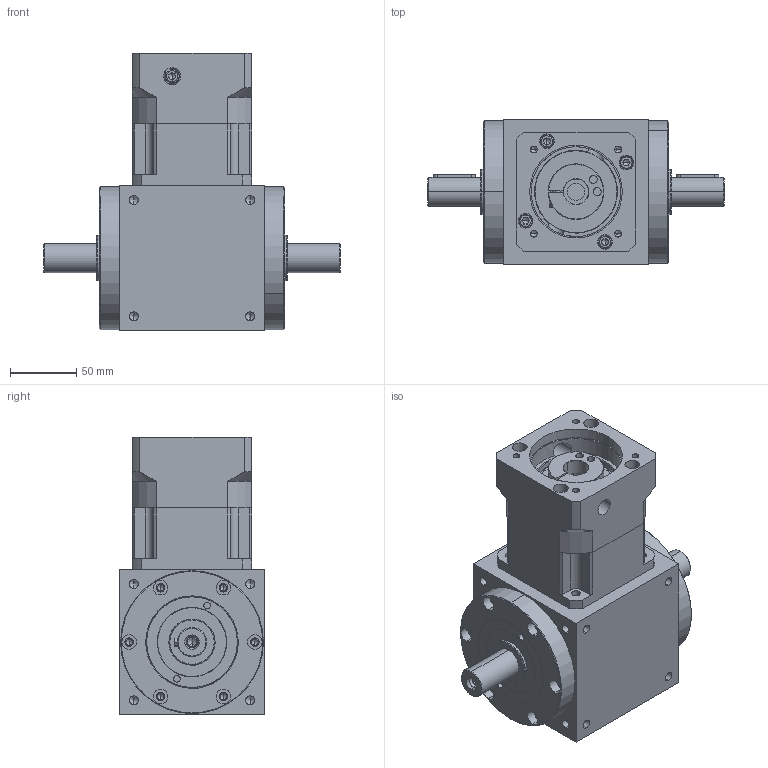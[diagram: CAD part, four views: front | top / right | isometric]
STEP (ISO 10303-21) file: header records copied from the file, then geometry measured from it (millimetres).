
FILE_DESCRIPTION (( 'STEP AP214' ), '1' );
FILE_NAME ('LAT110-FL-AB90-L1-19-70-90-M6蛌砃儂.STEP', '2025-03-13T03:40:08', ( 'Windows 蚚誧' ), ( 'Organization' ), 'SwSTEP 2.0', 'SolidWorks 2023', '' );
FILE_SCHEMA (( 'AUTOMOTIVE_DESIGN' ));
Length unit declared in the file: millimetre
Products named in the file (1): LAT110-FL-AB90-L1-19-70-90-M6转向机
Bounding box: 224 x 110 x 210 mm (x, y, z)
Volume: 1535347.4 mm3; surface area: 333722.8 mm2
Topology: 22 solids, 22 shells, 1037 faces, 2415 edges, 1435 vertices
Faces by surface type: cylinder 487, plane 264, cone 263, torus 23
Entity records: 30890 total; most frequent: CARTESIAN_POINT 6869, DIRECTION 5350, ORIENTED_EDGE 4634, EDGE_CURVE 2317, AXIS2_PLACEMENT_3D 2152, VERTEX_POINT 1435, EDGE_LOOP 1246, CIRCLE 1114
